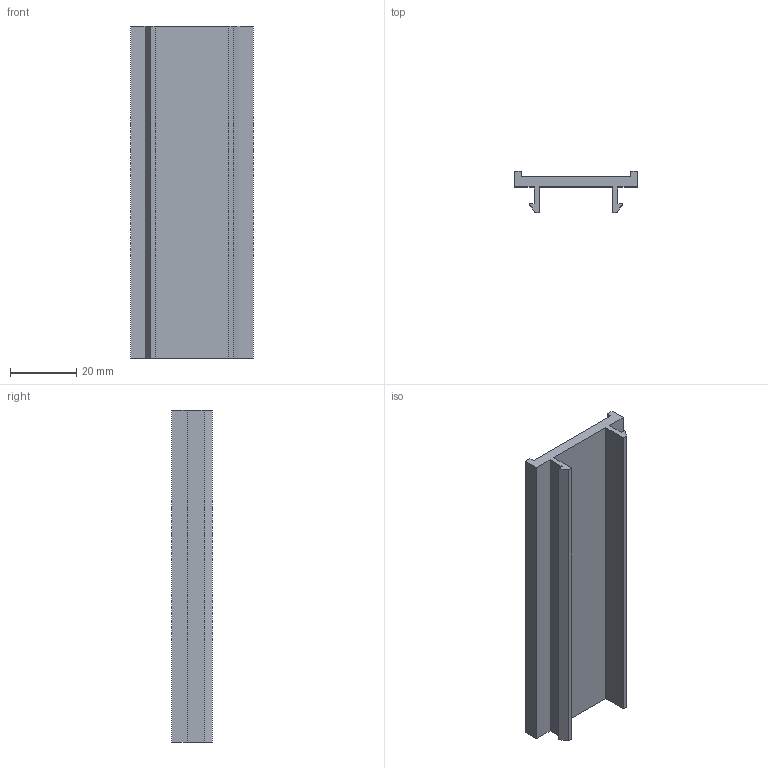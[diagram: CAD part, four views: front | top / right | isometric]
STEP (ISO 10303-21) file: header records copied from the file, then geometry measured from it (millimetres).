
FILE_DESCRIPTION (( 'STEP AP203' ), '1' );
FILE_NAME ('112.101.002.STEP', '2017-07-04T12:41:23', ( 'Localadmin' ), ( 'Microsoft' ), 'SwSTEP 2.0', 'SolidWorks 2016', '' );
FILE_SCHEMA (( 'CONFIG_CONTROL_DESIGN' ));
Length unit declared in the file: millimetre
Products named in the file (1): 112.101.002
Bounding box: 37 x 12.3 x 100 mm (x, y, z)
Volume: 15045 mm3; surface area: 12345.5 mm2
Topology: 1 solids, 1 shells, 22 faces, 60 edges, 40 vertices
Faces by surface type: plane 22
Entity records: 761 total; most frequent: CARTESIAN_POINT 123, ORIENTED_EDGE 120, DIRECTION 106, EDGE_CURVE 60, LINE 60, VECTOR 60, VERTEX_POINT 40, AXIS2_PLACEMENT_3D 23
